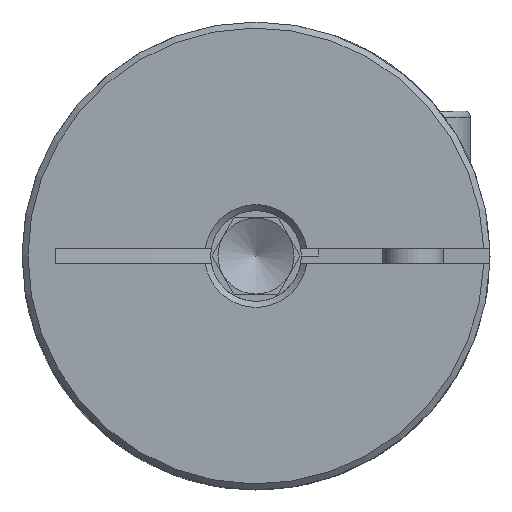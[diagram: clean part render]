
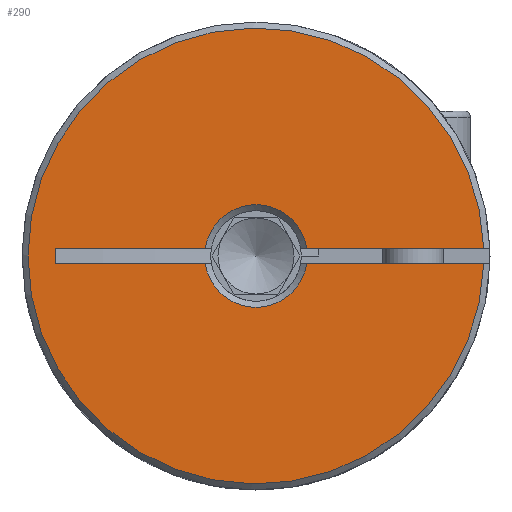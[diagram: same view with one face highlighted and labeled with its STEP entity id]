
A CAD part, left-side view. The second image highlights one B-rep face of the part: STEP entity #290.
In plain terms, the highlighted planar face has unit normal (-1, 0, 0).
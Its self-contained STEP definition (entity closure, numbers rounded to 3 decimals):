
#290 = ADVANCED_FACE( 'NONE', ( #647 ), #648, .F. );
#647 = FACE_OUTER_BOUND( '', #1199, .T. );
#648 = PLANE( '', #1200 );
#1199 = EDGE_LOOP( '', ( #1774, #1775, #1776, #1777, #1778, #1779, #1780, #1781 ) );
#1200 = AXIS2_PLACEMENT_3D( '', #1782, #1783, #1784 );
#1774 = ORIENTED_EDGE( '', *, *, #2723, .T. );
#1775 = ORIENTED_EDGE( '', *, *, #2724, .T. );
#1776 = ORIENTED_EDGE( '', *, *, #2725, .T. );
#1777 = ORIENTED_EDGE( '', *, *, #2726, .T. );
#1778 = ORIENTED_EDGE( '', *, *, #2727, .F. );
#1779 = ORIENTED_EDGE( '', *, *, #2728, .T. );
#1780 = ORIENTED_EDGE( '', *, *, #2729, .F. );
#1781 = ORIENTED_EDGE( '', *, *, #2730, .T. );
#1782 = CARTESIAN_POINT( '', ( 0., 1.5, 0. ) );
#1783 = DIRECTION( '', ( 1., 0., 0. ) );
#1784 = DIRECTION( '', ( 0., 1., 0. ) );
#2723 = EDGE_CURVE( 'NONE', #3112, #3113, #3114, .T. );
#2724 = EDGE_CURVE( 'NONE', #3113, #3115, #3116, .T. );
#2725 = EDGE_CURVE( 'NONE', #3115, #3117, #3118, .T. );
#2726 = EDGE_CURVE( 'NONE', #3117, #3119, #3120, .F. );
#2727 = EDGE_CURVE( 'NONE', #3121, #3119, #3122, .F. );
#2728 = EDGE_CURVE( 'NONE', #3121, #3123, #3124, .T. );
#2729 = EDGE_CURVE( 'NONE', #3125, #3123, #3126, .F. );
#2730 = EDGE_CURVE( 'NONE', #3125, #3112, #3127, .T. );
#3112 = VERTEX_POINT( 'NONE', #3635 );
#3113 = VERTEX_POINT( 'NONE', #3636 );
#3114 = LINE( '', #3637, #3638 );
#3115 = VERTEX_POINT( 'NONE', #3639 );
#3116 = CIRCLE( '', #3640, 1.7 );
#3117 = VERTEX_POINT( 'NONE', #3641 );
#3118 = LINE( '', #3642, #3643 );
#3119 = VERTEX_POINT( 'NONE', #3644 );
#3120 = CIRCLE( '', #3645, 7.55 );
#3121 = VERTEX_POINT( 'NONE', #3646 );
#3122 = LINE( '', #3647, #3648 );
#3123 = VERTEX_POINT( 'NONE', #3649 );
#3124 = CIRCLE( '', #3650, 1.7 );
#3125 = VERTEX_POINT( 'NONE', #3651 );
#3126 = LINE( '', #3652, #3653 );
#3127 = LINE( '', #3654, #3655 );
#3635 = CARTESIAN_POINT( '', ( 0., 6.624, 0.25 ) );
#3636 = CARTESIAN_POINT( '', ( 0., 1.682, 0.25 ) );
#3637 = CARTESIAN_POINT( '', ( 0., 1.5, 0.25 ) );
#3638 = VECTOR( '', #4317, 1000. );
#3639 = CARTESIAN_POINT( '', ( 0., -1.682, 0.25 ) );
#3640 = AXIS2_PLACEMENT_3D( '', #4318, #4319, #4320 );
#3641 = CARTESIAN_POINT( '', ( 0., -7.546, 0.25 ) );
#3642 = CARTESIAN_POINT( '', ( 0., 1.5, 0.25 ) );
#3643 = VECTOR( '', #4321, 1000. );
#3644 = CARTESIAN_POINT( '', ( 0., -7.546, -0.25 ) );
#3645 = AXIS2_PLACEMENT_3D( '', #4322, #4323, #4324 );
#3646 = CARTESIAN_POINT( '', ( 0., -1.682, -0.25 ) );
#3647 = CARTESIAN_POINT( '', ( 0., -4.5, -0.25 ) );
#3648 = VECTOR( '', #4325, 1000. );
#3649 = CARTESIAN_POINT( '', ( 0., 1.682, -0.25 ) );
#3650 = AXIS2_PLACEMENT_3D( '', #4326, #4327, #4328 );
#3651 = CARTESIAN_POINT( '', ( 0., 6.624, -0.25 ) );
#3652 = CARTESIAN_POINT( '', ( 0., -4.5, -0.25 ) );
#3653 = VECTOR( '', #4329, 1000. );
#3654 = CARTESIAN_POINT( '', ( 0., 6.624, -0.25 ) );
#3655 = VECTOR( '', #4330, 1000. );
#4317 = DIRECTION( '', ( 0., -1., 0. ) );
#4318 = CARTESIAN_POINT( '', ( 0., 0., 0. ) );
#4319 = DIRECTION( '', ( 1., 0., 0. ) );
#4320 = DIRECTION( '', ( 0., 0., -1. ) );
#4321 = DIRECTION( '', ( 0., -1., 0. ) );
#4322 = CARTESIAN_POINT( '', ( 0., 0., 0. ) );
#4323 = DIRECTION( '', ( 1., 0., 0. ) );
#4324 = DIRECTION( '', ( 0., 0., -1. ) );
#4325 = DIRECTION( '', ( 0., 1., 0. ) );
#4326 = CARTESIAN_POINT( '', ( 0., 0., 0. ) );
#4327 = DIRECTION( '', ( 1., 0., 0. ) );
#4328 = DIRECTION( '', ( 0., 0., -1. ) );
#4329 = DIRECTION( '', ( 0., 1., 0. ) );
#4330 = DIRECTION( '', ( 0., 0., 1. ) );
